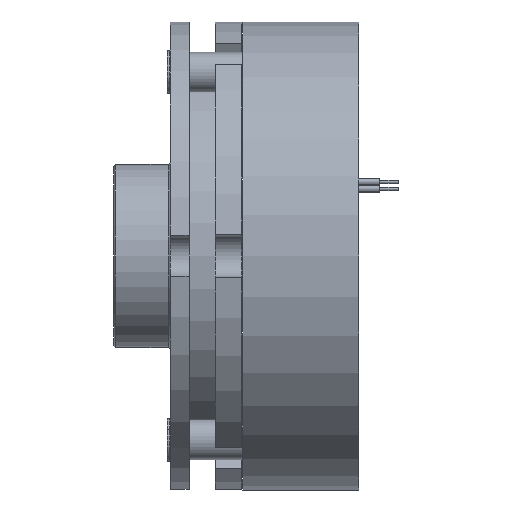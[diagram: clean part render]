
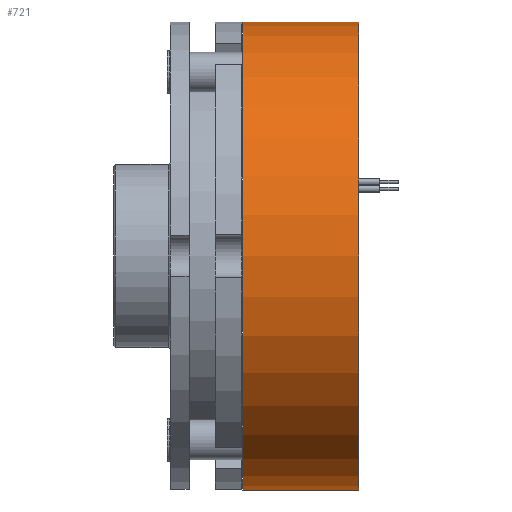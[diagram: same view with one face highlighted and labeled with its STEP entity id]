
A CAD part, front view. The second image highlights one B-rep face of the part: STEP entity #721.
In plain terms, the highlighted cylindrical face has radius 62 mm (diameter 124 mm), a partial arc.
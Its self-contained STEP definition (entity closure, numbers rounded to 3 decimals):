
#135 = VECTOR ( 'NONE', #1242, 1000. ) ;
#263 = CARTESIAN_POINT ( 'NONE',  ( 0., 0., -62. ) ) ;
#313 = DIRECTION ( 'NONE',  ( -1., 0., 0. ) ) ;
#516 = CARTESIAN_POINT ( 'NONE',  ( 0., 0., -62. ) ) ;
#634 = VERTEX_POINT ( 'NONE', #263 ) ;
#669 = CARTESIAN_POINT ( 'NONE',  ( 0., 0., 62. ) ) ;
#709 = DIRECTION ( 'NONE',  ( -1., 0., 0. ) ) ;
#721 = ADVANCED_FACE ( 'NONE', ( #1938 ), #1902, .T. ) ;
#747 = ORIENTED_EDGE ( 'NONE', *, *, #3408, .T. ) ;
#765 = CARTESIAN_POINT ( 'NONE',  ( 30.8, 0., 0. ) ) ;
#1213 = ORIENTED_EDGE ( 'NONE', *, *, #1590, .T. ) ;
#1242 = DIRECTION ( 'NONE',  ( -1., 0., 0. ) ) ;
#1255 = CIRCLE ( 'NONE', #2469, 62. ) ;
#1560 = EDGE_LOOP ( 'NONE', ( #2876, #1213, #747, #2719 ) ) ;
#1590 = EDGE_CURVE ( 'NONE', #3196, #2239, #3767, .T. ) ;
#1717 = DIRECTION ( 'NONE',  ( 0., 0., 1. ) ) ;
#1841 = EDGE_CURVE ( 'NONE', #3196, #634, #2886, .T. ) ;
#1902 = CYLINDRICAL_SURFACE ( 'NONE', #2685, 62. ) ;
#1938 = FACE_OUTER_BOUND ( 'NONE', #1560, .T. ) ;
#2027 = CARTESIAN_POINT ( 'NONE',  ( 30.8, 0., -62. ) ) ;
#2076 = CARTESIAN_POINT ( 'NONE',  ( 0., 0., 0. ) ) ;
#2090 = DIRECTION ( 'NONE',  ( 0., 0., 1. ) ) ;
#2116 = DIRECTION ( 'NONE',  ( -1., 0., 0. ) ) ;
#2239 = VERTEX_POINT ( 'NONE', #2936 ) ;
#2256 = CARTESIAN_POINT ( 'NONE',  ( 0., 0., 62. ) ) ;
#2469 = AXIS2_PLACEMENT_3D ( 'NONE', #4202, #313, #3437 ) ;
#2685 = AXIS2_PLACEMENT_3D ( 'NONE', #2076, #3168, #1717 ) ;
#2719 = ORIENTED_EDGE ( 'NONE', *, *, #2983, .F. ) ;
#2876 = ORIENTED_EDGE ( 'NONE', *, *, #1841, .F. ) ;
#2886 = LINE ( 'NONE', #516, #3783 ) ;
#2936 = CARTESIAN_POINT ( 'NONE',  ( 30.8, 0., 62. ) ) ;
#2983 = EDGE_CURVE ( 'NONE', #634, #3818, #1255, .T. ) ;
#3168 = DIRECTION ( 'NONE',  ( -1., 0., 0. ) ) ;
#3196 = VERTEX_POINT ( 'NONE', #2027 ) ;
#3199 = AXIS2_PLACEMENT_3D ( 'NONE', #765, #709, #2090 ) ;
#3238 = LINE ( 'NONE', #2256, #135 ) ;
#3408 = EDGE_CURVE ( 'NONE', #2239, #3818, #3238, .T. ) ;
#3437 = DIRECTION ( 'NONE',  ( 0., 0., 1. ) ) ;
#3767 = CIRCLE ( 'NONE', #3199, 62. ) ;
#3783 = VECTOR ( 'NONE', #2116, 1000. ) ;
#3818 = VERTEX_POINT ( 'NONE', #669 ) ;
#4202 = CARTESIAN_POINT ( 'NONE',  ( 0., 0., 0. ) ) ;
